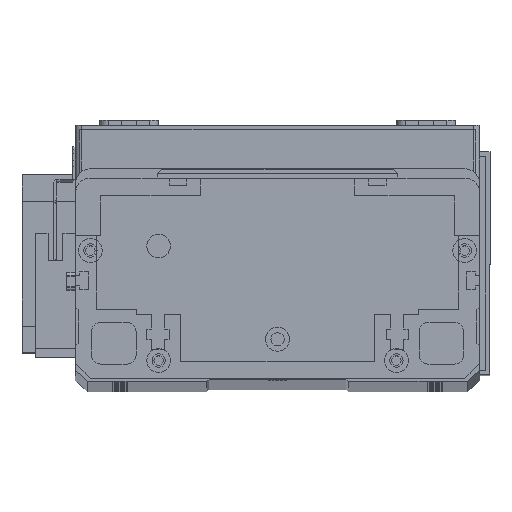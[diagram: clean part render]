
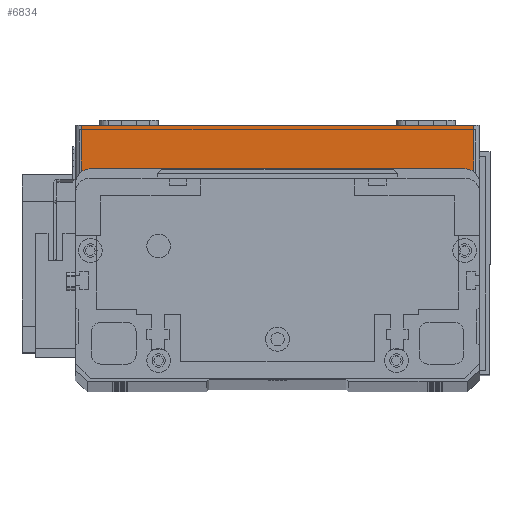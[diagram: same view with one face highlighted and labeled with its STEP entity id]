
A CAD part, top view. The second image highlights one B-rep face of the part: STEP entity #6834.
In plain terms, the highlighted planar face has unit normal (0, 0, 1) as drawn and (0, -1, 0) by its records, which use the part's own axes.
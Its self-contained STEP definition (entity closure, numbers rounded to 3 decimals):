
#1077 = DIRECTION ( 'NONE',  ( 0., 0., 1. ) ) ;
#1371 = DIRECTION ( 'NONE',  ( 0., 0., 1. ) ) ;
#2602 = ORIENTED_EDGE ( 'NONE', *, *, #3432, .T. ) ;
#3432 = EDGE_CURVE ( 'NONE', #29470, #10617, #5407, .T. ) ;
#5407 = LINE ( 'NONE', #25634, #29438 ) ;
#5883 = CARTESIAN_POINT ( 'NONE',  ( 0., 0., 19.5 ) ) ;
#6053 = LINE ( 'NONE', #28876, #16982 ) ;
#6834 = ADVANCED_FACE ( 'NONE', ( #23628 ), #24598, .F. ) ;
#7111 = CARTESIAN_POINT ( 'NONE',  ( 2., 0., 0. ) ) ;
#7951 = LINE ( 'NONE', #21957, #19615 ) ;
#8176 = DIRECTION ( 'NONE',  ( 1., 0., 0. ) ) ;
#10617 = VERTEX_POINT ( 'NONE', #11946 ) ;
#11946 = CARTESIAN_POINT ( 'NONE',  ( 134., 0., 0. ) ) ;
#11949 = LINE ( 'NONE', #5883, #24305 ) ;
#12449 = EDGE_CURVE ( 'NONE', #10617, #12810, #7951, .T. ) ;
#12810 = VERTEX_POINT ( 'NONE', #23459 ) ;
#13109 = AXIS2_PLACEMENT_3D ( 'NONE', #19914, #15349, #1371 ) ;
#15349 = DIRECTION ( 'NONE',  ( 0., 1., 0. ) ) ;
#15634 = ORIENTED_EDGE ( 'NONE', *, *, #23438, .T. ) ;
#15987 = EDGE_CURVE ( 'NONE', #22579, #12810, #11949, .T. ) ;
#16982 = VECTOR ( 'NONE', #21936, 1000. ) ;
#17822 = ORIENTED_EDGE ( 'NONE', *, *, #15987, .F. ) ;
#19615 = VECTOR ( 'NONE', #1077, 1000. ) ;
#19914 = CARTESIAN_POINT ( 'NONE',  ( 0., 0., 19.5 ) ) ;
#20041 = CARTESIAN_POINT ( 'NONE',  ( 2., 0., 19.5 ) ) ;
#21936 = DIRECTION ( 'NONE',  ( 0., 0., -1. ) ) ;
#21957 = CARTESIAN_POINT ( 'NONE',  ( 134., 0., 19.5 ) ) ;
#22579 = VERTEX_POINT ( 'NONE', #20041 ) ;
#22741 = ORIENTED_EDGE ( 'NONE', *, *, #12449, .T. ) ;
#23438 = EDGE_CURVE ( 'NONE', #22579, #29470, #6053, .T. ) ;
#23459 = CARTESIAN_POINT ( 'NONE',  ( 134., 0., 19.5 ) ) ;
#23628 = FACE_OUTER_BOUND ( 'NONE', #28539, .T. ) ;
#24305 = VECTOR ( 'NONE', #8176, 1000. ) ;
#24598 = PLANE ( 'NONE',  #13109 ) ;
#25634 = CARTESIAN_POINT ( 'NONE',  ( 0., 0., 0. ) ) ;
#25725 = DIRECTION ( 'NONE',  ( 1., 0., 0. ) ) ;
#28539 = EDGE_LOOP ( 'NONE', ( #17822, #15634, #2602, #22741 ) ) ;
#28876 = CARTESIAN_POINT ( 'NONE',  ( 2., 0., 19.5 ) ) ;
#29438 = VECTOR ( 'NONE', #25725, 1000. ) ;
#29470 = VERTEX_POINT ( 'NONE', #7111 ) ;
